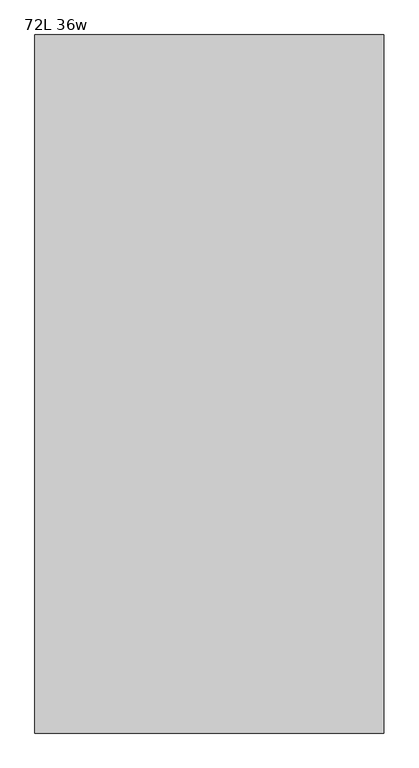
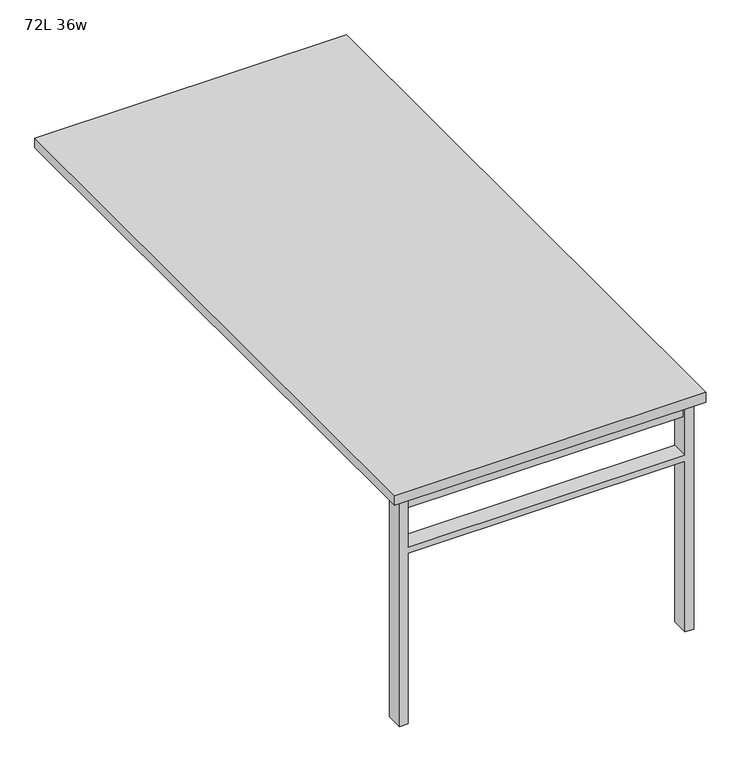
"""IFC4 building model written with IfcOpenShell, lengths in millimetres: furniture geometry, Haworth_Compose_Worksurface_RectangularConvergent : 72L 36w."""

from ifc_helpers import new_model, si_unit, frame, origin, place, context, project, spatial, polyline, outline, extrude, source, transform, mapped, element, save


def furniture_72l_36w_2dfd10e7(model_context):
    return source(origin(), model_context, "Body", "SweptSolid", [
        extrude(outline(polyline([(-406.4, -854.075), (406.4, -854.075), (406.4, -885.825), (-406.4, -885.825), (-406.4, -854.075)])), frame((0.0, 0.0, 661.9875), z_axis=(0.0, 0.0, 1.0), x_axis=(1.0, 0.0, 0.0)), (0.0, 0.0, 1.0), 44.45),
        extrude(outline(polyline([(528.6375, 406.4), (0.0, 406.4), (0.0, 431.8), (706.4375, 431.8), (706.4375, 406.4), (547.6875, 406.4), (547.6875, -406.4), (706.4375, -406.4), (706.4375, -431.8), (0.0, -431.8), (0.0, -406.4), (528.6375, -406.4), (528.6375, 406.4)])), frame((0.0, -895.35, 0.0), z_axis=(0.0, 1.0, 0.0), x_axis=(0.0, 0.0, 1.0)), (0.0, 0.0, 1.0), 50.8),
        extrude(outline(polyline([(-457.2, -914.4), (-457.2, 914.4), (457.2, 914.4), (457.2, -914.4), (-457.2, -914.4)])), frame((0.0, 0.0, 706.4375), z_axis=(0.0, 0.0, 1.0), x_axis=(1.0, 0.0, 0.0)), (0.0, 0.0, 1.0), 30.1625),
    ])


if __name__ == "__main__":
    model = new_model("IFC4")
    model_context = context("Model", 3, world=origin())
    ifc_project = project(units=[si_unit("LENGTHUNIT", "METRE", prefix="MILLI")], contexts=[model_context])
    site = spatial("IfcSite", under=ifc_project)
    building = spatial("IfcBuilding", under=site)
    placement = place(None, origin())
    furniture_72l_36w_shape = furniture_72l_36w_2dfd10e7(model_context)
    element("IfcFurniture", 1, ObjectType="Haworth_Compose_Worksurface_RectangularConvergent : 72L 36w", at=placement, inside=building, context=model_context, shape_type="MappedRepresentation", body=[
        mapped(furniture_72l_36w_shape, transform((0.0, 0.0, 0.0), x_axis=(1.0, 0.0, 0.0), y_axis=(0.0, 1.0, 0.0), z_axis=(0.0, 0.0, 1.0))),
    ])
    save(model, "model.ifc")
